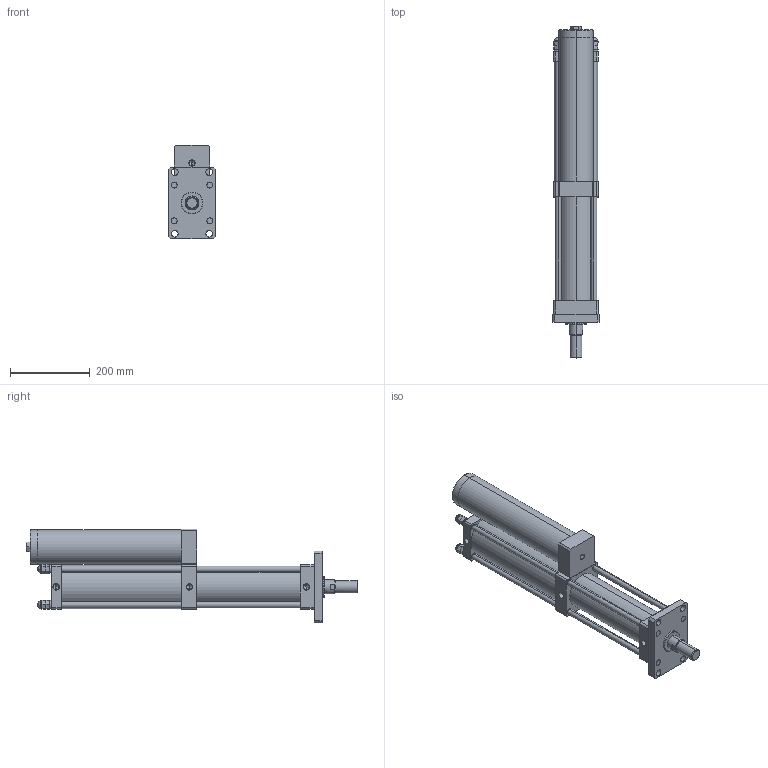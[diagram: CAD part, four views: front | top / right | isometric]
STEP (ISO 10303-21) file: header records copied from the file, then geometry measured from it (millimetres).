
FILE_DESCRIPTION (( 'STEP AP203' ), '1' );
FILE_NAME ('MPT-80-200-20-5T.STEP', '2016-03-11T01:45:03', ( 'WIN' ), ( '' ), 'SwSTEP 2.0', 'SolidWorks 2014', '' );
FILE_SCHEMA (( 'CONFIG_CONTROL_DESIGN' ));
Length unit declared in the file: millimetre
Products named in the file (1): MPT-80-200-20-5T
Bounding box: 118 x 835 x 235 mm (x, y, z)
Volume: 7292641.2 mm3; surface area: 807700.5 mm2
Topology: 20 solids, 20 shells, 391 faces, 954 edges, 554 vertices
Faces by surface type: plane 184, cylinder 84, torus 48, bspline 48, cone 27
Entity records: 12532 total; most frequent: CARTESIAN_POINT 3676, DIRECTION 1861, ORIENTED_EDGE 1776, EDGE_CURVE 888, AXIS2_PLACEMENT_3D 683, VERTEX_POINT 554, VECTOR 495, LINE 495
